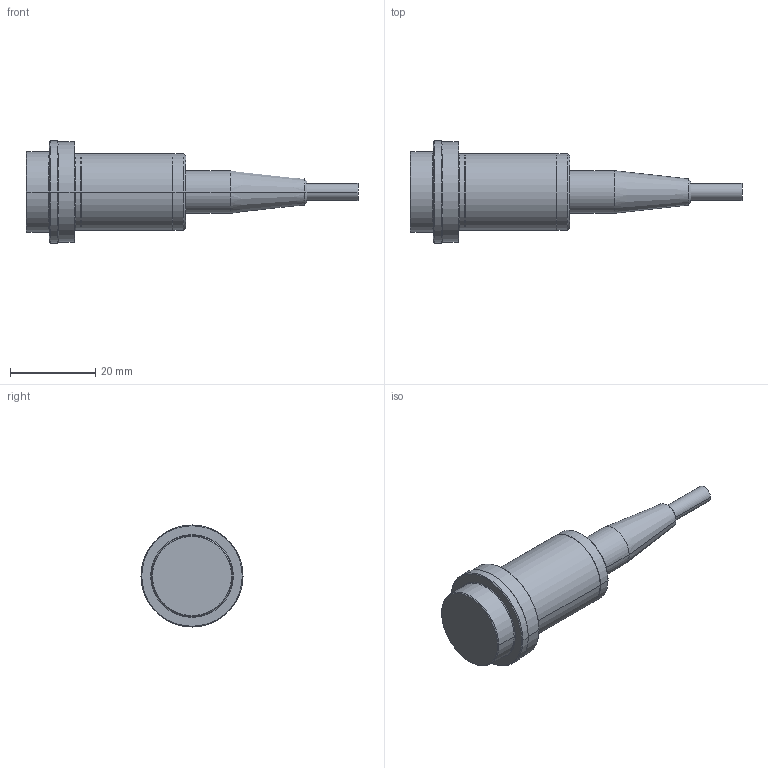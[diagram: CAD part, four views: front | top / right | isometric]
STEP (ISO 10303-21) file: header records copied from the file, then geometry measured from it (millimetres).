
FILE_DESCRIPTION(('STEP AP214'),'1');
FILE_NAME('burster_8103-10_a1ekflrdcgn76icozy3m6qspt.stp','2017-04-19T13:53:00',('TraceParts'),('TraceParts S.A.'),'Spatial InterOp 3D',' ',' ');
FILE_SCHEMA(('automotive_design'));
Length unit declared in the file: millimetre
Products named in the file (1): burster_8103-10_a1ekflrdcgn76icozy3m6qspt
Bounding box: 78 x 24 x 24 mm (x, y, z)
Volume: 12705.6 mm3; surface area: 3988.2 mm2
Topology: 1 solids, 1 shells, 59 faces, 122 edges, 72 vertices
Faces by surface type: cone 26, cylinder 20, plane 9, torus 4
Entity records: 2064 total; most frequent: DIRECTION 318, CARTESIAN_POINT 254, ORIENTED_EDGE 244, AXIS2_PLACEMENT_3D 136, EDGE_CURVE 122, CIRCLE 76, VERTEX_POINT 72, EDGE_LOOP 66
